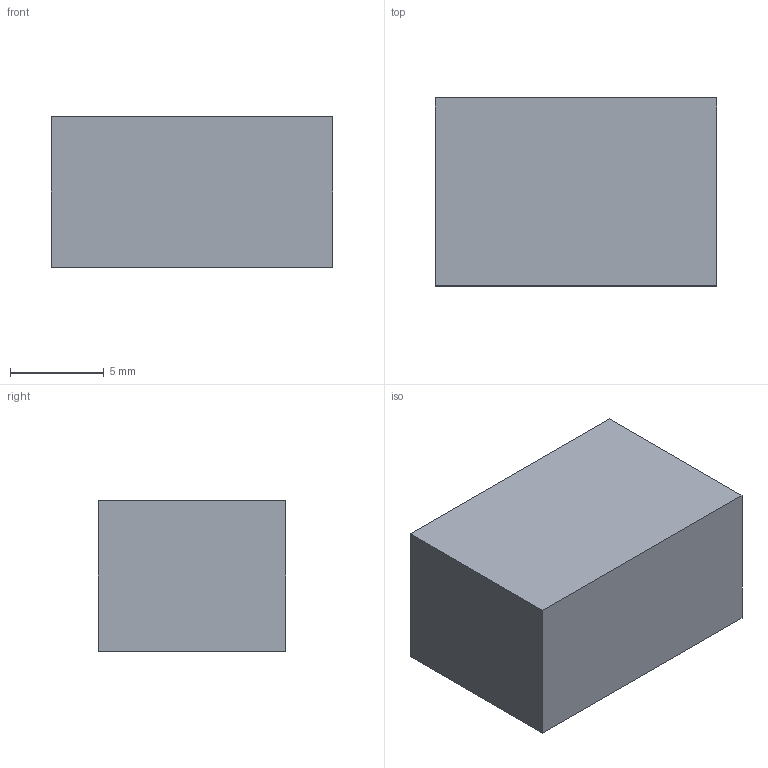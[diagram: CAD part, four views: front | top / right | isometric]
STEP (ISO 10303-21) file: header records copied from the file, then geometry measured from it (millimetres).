
FILE_DESCRIPTION(('Open CASCADE Model'),'2;1');
FILE_NAME('Open CASCADE Shape Model','2026-10-06T03:35:42',('Author'),( 'Open CASCADE'),'Open CASCADE STEP processor 7.8','Open CASCADE 7.8' ,'Unknown');
FILE_SCHEMA(('AUTOMOTIVE_DESIGN { 1 0 10303 214 1 1 1 1 }'));
Length unit declared in the file: millimetre
Products named in the file (1): Open CASCADE STEP translator 7.8 19
Bounding box: 15 x 10 x 8 mm (x, y, z)
Volume: 1200 mm3; surface area: 700 mm2
Topology: 1 solids, 1 shells, 6 faces, 12 edges, 8 vertices
Faces by surface type: plane 6
Entity records: 322 total; most frequent: CARTESIAN_POINT 51, DIRECTION 50, LINE 36, VECTOR 36, ORIENTED_EDGE 24, PCURVE 24, DEFINITIONAL_REPRESENTATION 24, EDGE_CURVE 12
